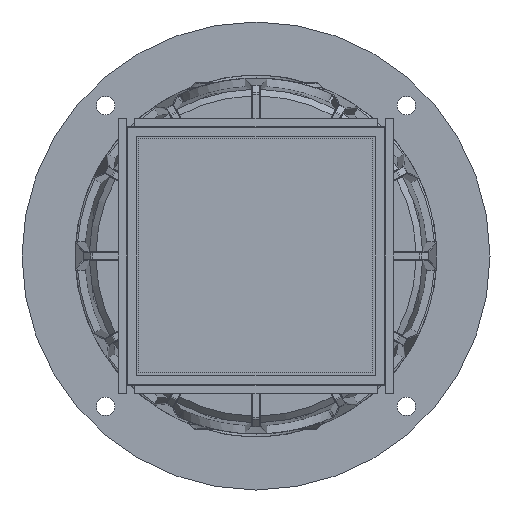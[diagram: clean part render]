
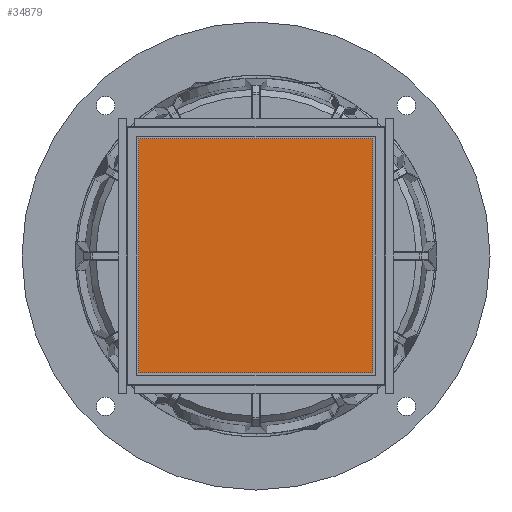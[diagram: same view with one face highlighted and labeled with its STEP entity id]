
A CAD part, front view. The second image highlights one B-rep face of the part: STEP entity #34879.
In plain terms, the highlighted planar face has unit normal (0, -1, 0).
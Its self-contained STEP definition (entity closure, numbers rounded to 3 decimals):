
#34732=DIRECTION('',(0.,0.,1.));
#34733=VECTOR('',#34732,58.);
#34734=CARTESIAN_POINT('',(-29.,-5.5,-29.));
#34735=LINE('',#34734,#34733);
#34736=DIRECTION('',(1.,0.,0.));
#34737=VECTOR('',#34736,58.);
#34738=CARTESIAN_POINT('',(-29.,-5.5,29.));
#34739=LINE('',#34738,#34737);
#34740=DIRECTION('',(0.,0.,-1.));
#34741=VECTOR('',#34740,58.);
#34742=CARTESIAN_POINT('',(29.,-5.5,29.));
#34743=LINE('',#34742,#34741);
#34744=DIRECTION('',(-1.,0.,0.));
#34745=VECTOR('',#34744,58.);
#34746=CARTESIAN_POINT('',(29.,-5.5,-29.));
#34747=LINE('',#34746,#34745);
#34778=CARTESIAN_POINT('',(-29.,-5.5,29.));
#34779=VERTEX_POINT('',#34778);
#34780=CARTESIAN_POINT('',(-29.,-5.5,-29.));
#34781=VERTEX_POINT('',#34780);
#34782=CARTESIAN_POINT('',(29.,-5.5,29.));
#34783=VERTEX_POINT('',#34782);
#34784=CARTESIAN_POINT('',(29.,-5.5,-29.));
#34785=VERTEX_POINT('',#34784);
#34868=CARTESIAN_POINT('',(0.,-5.5,0.));
#34869=DIRECTION('',(0.,1.,0.));
#34870=DIRECTION('',(-1.,0.,0.));
#34871=AXIS2_PLACEMENT_3D('',#34868,#34869,#34870);
#34872=PLANE('',#34871);
#34873=ORIENTED_EDGE('',*,*,#34820,.T.);
#34874=ORIENTED_EDGE('',*,*,#34835,.T.);
#34875=ORIENTED_EDGE('',*,*,#34849,.T.);
#34876=ORIENTED_EDGE('',*,*,#34862,.T.);
#34877=EDGE_LOOP('',(#34873,#34874,#34875,#34876));
#34878=FACE_OUTER_BOUND('',#34877,.F.);
#34879=ADVANCED_FACE('',(#34878),#34872,.F.);
#34820=EDGE_CURVE('',#34781,#34779,#34735,.T.);
#34835=EDGE_CURVE('',#34779,#34783,#34739,.T.);
#34849=EDGE_CURVE('',#34783,#34785,#34743,.T.);
#34862=EDGE_CURVE('',#34785,#34781,#34747,.T.);
